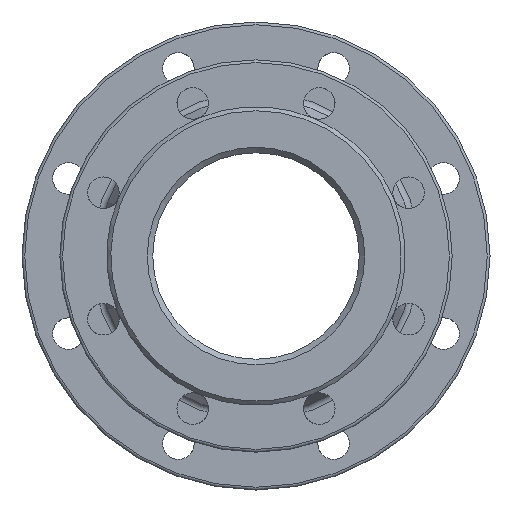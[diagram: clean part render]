
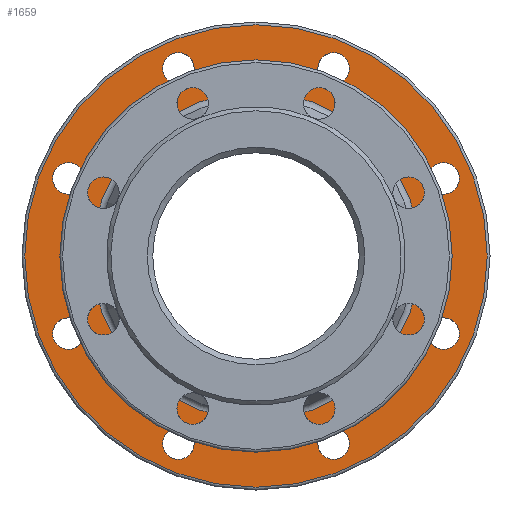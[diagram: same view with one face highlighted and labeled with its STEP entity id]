
A CAD part, left-side view. The second image highlights one B-rep face of the part: STEP entity #1659.
In plain terms, the highlighted planar face has unit normal (-1, 0, 0).
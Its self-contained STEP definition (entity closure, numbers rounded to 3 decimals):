
#67 = EDGE_LOOP ( 'NONE', ( #2176 ) ) ;
#70 = EDGE_CURVE ( 'NONE', #1224, #1224, #1065, .T. ) ;
#116 = DIRECTION ( 'NONE',  ( 0., 0., -1. ) ) ;
#160 = DIRECTION ( 'NONE',  ( 1., 0., 0. ) ) ;
#213 = AXIS2_PLACEMENT_3D ( 'NONE', #1549, #1332, #116 ) ;
#220 = EDGE_LOOP ( 'NONE', ( #1546 ) ) ;
#225 = ORIENTED_EDGE ( 'NONE', *, *, #636, .T. ) ;
#236 = CARTESIAN_POINT ( 'NONE',  ( 280., 136.272, -67.946 ) ) ;
#259 = AXIS2_PLACEMENT_3D ( 'NONE', #1467, #1703, #2485 ) ;
#281 = DIRECTION ( 'NONE',  ( 1., 0., 0. ) ) ;
#291 = DIRECTION ( 'NONE',  ( 1., 0., 0. ) ) ;
#300 = AXIS2_PLACEMENT_3D ( 'NONE', #2527, #2542, #308 ) ;
#308 = DIRECTION ( 'NONE',  ( 0., 0., -1. ) ) ;
#319 = FACE_BOUND ( 'NONE', #342, .T. ) ;
#342 = EDGE_LOOP ( 'NONE', ( #1066 ) ) ;
#344 = CIRCLE ( 'NONE', #213, 168. ) ;
#369 = EDGE_LOOP ( 'NONE', ( #2404 ) ) ;
#402 = EDGE_LOOP ( 'NONE', ( #2418 ) ) ;
#417 = CARTESIAN_POINT ( 'NONE',  ( 280., -136.272, 44.946 ) ) ;
#466 = DIRECTION ( 'NONE',  ( 1., 0., 0. ) ) ;
#474 = FACE_BOUND ( 'NONE', #1943, .T. ) ;
#525 = FACE_BOUND ( 'NONE', #1707, .T. ) ;
#552 = AXIS2_PLACEMENT_3D ( 'NONE', #1528, #1556, #1981 ) ;
#616 = VERTEX_POINT ( 'NONE', #2507 ) ;
#622 = ORIENTED_EDGE ( 'NONE', *, *, #628, .T. ) ;
#628 = EDGE_CURVE ( 'NONE', #810, #810, #1759, .T. ) ;
#630 = VERTEX_POINT ( 'NONE', #236 ) ;
#636 = EDGE_CURVE ( 'NONE', #1800, #1800, #1156, .T. ) ;
#685 = AXIS2_PLACEMENT_3D ( 'NONE', #2664, #1232, #2474 ) ;
#687 = EDGE_CURVE ( 'NONE', #616, #616, #1669, .T. ) ;
#692 = FACE_BOUND ( 'NONE', #1037, .T. ) ;
#721 = CARTESIAN_POINT ( 'NONE',  ( 280., 136.272, -56.446 ) ) ;
#755 = EDGE_CURVE ( 'NONE', #1894, #1894, #1499, .T. ) ;
#783 = EDGE_CURVE ( 'NONE', #2051, #2051, #939, .T. ) ;
#794 = AXIS2_PLACEMENT_3D ( 'NONE', #1521, #915, #1291 ) ;
#810 = VERTEX_POINT ( 'NONE', #1575 ) ;
#835 = CARTESIAN_POINT ( 'NONE',  ( 280., 0., -168. ) ) ;
#872 = EDGE_CURVE ( 'NONE', #2248, #2248, #1583, .T. ) ;
#915 = DIRECTION ( 'NONE',  ( 1., 0., 0. ) ) ;
#929 = FACE_OUTER_BOUND ( 'NONE', #369, .T. ) ;
#939 = CIRCLE ( 'NONE', #1444, 11.5 ) ;
#940 = FACE_BOUND ( 'NONE', #2100, .T. ) ;
#1037 = EDGE_LOOP ( 'NONE', ( #622 ) ) ;
#1063 = VERTEX_POINT ( 'NONE', #2295 ) ;
#1065 = CIRCLE ( 'NONE', #300, 11.5 ) ;
#1066 = ORIENTED_EDGE ( 'NONE', *, *, #1189, .T. ) ;
#1091 = FACE_BOUND ( 'NONE', #220, .T. ) ;
#1131 = FACE_BOUND ( 'NONE', #2147, .T. ) ;
#1156 = CIRCLE ( 'NONE', #1405, 119.185 ) ;
#1178 = CARTESIAN_POINT ( 'NONE',  ( 280., 56.446, 136.272 ) ) ;
#1189 = EDGE_CURVE ( 'NONE', #630, #630, #1507, .T. ) ;
#1207 = AXIS2_PLACEMENT_3D ( 'NONE', #721, #281, #1939 ) ;
#1224 = VERTEX_POINT ( 'NONE', #1409 ) ;
#1232 = DIRECTION ( 'NONE',  ( 1., 0., 0. ) ) ;
#1237 = CARTESIAN_POINT ( 'NONE',  ( 280., 136.272, 44.946 ) ) ;
#1255 = ORIENTED_EDGE ( 'NONE', *, *, #2093, .T. ) ;
#1259 = ORIENTED_EDGE ( 'NONE', *, *, #872, .T. ) ;
#1291 = DIRECTION ( 'NONE',  ( 0., 0., -1. ) ) ;
#1305 = PLANE ( 'NONE',  #1594 ) ;
#1332 = DIRECTION ( 'NONE',  ( -1., 0., 0. ) ) ;
#1405 = AXIS2_PLACEMENT_3D ( 'NONE', #2199, #1427, #1649 ) ;
#1409 = CARTESIAN_POINT ( 'NONE',  ( 280., -56.446, -147.772 ) ) ;
#1414 = DIRECTION ( 'NONE',  ( 0., 0., -1. ) ) ;
#1418 = ORIENTED_EDGE ( 'NONE', *, *, #783, .T. ) ;
#1427 = DIRECTION ( 'NONE',  ( 1., 0., 0. ) ) ;
#1444 = AXIS2_PLACEMENT_3D ( 'NONE', #2058, #466, #2257 ) ;
#1467 = CARTESIAN_POINT ( 'NONE',  ( 280., -136.272, 56.446 ) ) ;
#1499 = CIRCLE ( 'NONE', #259, 11.5 ) ;
#1507 = CIRCLE ( 'NONE', #1207, 11.5 ) ;
#1510 = FACE_BOUND ( 'NONE', #402, .T. ) ;
#1521 = CARTESIAN_POINT ( 'NONE',  ( 280., 56.446, -136.272 ) ) ;
#1522 = DIRECTION ( 'NONE',  ( 0., 0., -1. ) ) ;
#1528 = CARTESIAN_POINT ( 'NONE',  ( 280., 136.272, 56.446 ) ) ;
#1546 = ORIENTED_EDGE ( 'NONE', *, *, #70, .T. ) ;
#1549 = CARTESIAN_POINT ( 'NONE',  ( 280., 0., 0. ) ) ;
#1556 = DIRECTION ( 'NONE',  ( 1., 0., 0. ) ) ;
#1575 = CARTESIAN_POINT ( 'NONE',  ( 280., 56.446, 124.772 ) ) ;
#1580 = AXIS2_PLACEMENT_3D ( 'NONE', #1178, #160, #1414 ) ;
#1583 = CIRCLE ( 'NONE', #552, 11.5 ) ;
#1594 = AXIS2_PLACEMENT_3D ( 'NONE', #2124, #291, #1522 ) ;
#1649 = DIRECTION ( 'NONE',  ( 0., 0., -1. ) ) ;
#1659 = ADVANCED_FACE ( 'NONE', ( #525, #929, #319, #474, #692, #940, #1510, #1935, #1091, #1131 ), #1305, .F. ) ;
#1669 = CIRCLE ( 'NONE', #685, 11.5 ) ;
#1695 = CARTESIAN_POINT ( 'NONE',  ( 280., -56.446, 124.772 ) ) ;
#1703 = DIRECTION ( 'NONE',  ( 1., 0., 0. ) ) ;
#1707 = EDGE_LOOP ( 'NONE', ( #225 ) ) ;
#1721 = EDGE_CURVE ( 'NONE', #2493, #2493, #344, .T. ) ;
#1759 = CIRCLE ( 'NONE', #1580, 11.5 ) ;
#1800 = VERTEX_POINT ( 'NONE', #2632 ) ;
#1894 = VERTEX_POINT ( 'NONE', #417 ) ;
#1935 = FACE_BOUND ( 'NONE', #67, .T. ) ;
#1939 = DIRECTION ( 'NONE',  ( 0., 0., -1. ) ) ;
#1943 = EDGE_LOOP ( 'NONE', ( #1259 ) ) ;
#1981 = DIRECTION ( 'NONE',  ( 0., 0., -1. ) ) ;
#2051 = VERTEX_POINT ( 'NONE', #1695 ) ;
#2058 = CARTESIAN_POINT ( 'NONE',  ( 280., -56.446, 136.272 ) ) ;
#2093 = EDGE_CURVE ( 'NONE', #1063, #1063, #2165, .T. ) ;
#2100 = EDGE_LOOP ( 'NONE', ( #1418 ) ) ;
#2124 = CARTESIAN_POINT ( 'NONE',  ( 280., 116., 0. ) ) ;
#2147 = EDGE_LOOP ( 'NONE', ( #1255 ) ) ;
#2165 = CIRCLE ( 'NONE', #794, 11.5 ) ;
#2176 = ORIENTED_EDGE ( 'NONE', *, *, #687, .T. ) ;
#2199 = CARTESIAN_POINT ( 'NONE',  ( 280., 0., 0. ) ) ;
#2248 = VERTEX_POINT ( 'NONE', #1237 ) ;
#2257 = DIRECTION ( 'NONE',  ( 0., 0., -1. ) ) ;
#2295 = CARTESIAN_POINT ( 'NONE',  ( 280., 56.446, -147.772 ) ) ;
#2404 = ORIENTED_EDGE ( 'NONE', *, *, #1721, .T. ) ;
#2418 = ORIENTED_EDGE ( 'NONE', *, *, #755, .T. ) ;
#2474 = DIRECTION ( 'NONE',  ( 0., 0., -1. ) ) ;
#2485 = DIRECTION ( 'NONE',  ( 0., 0., -1. ) ) ;
#2493 = VERTEX_POINT ( 'NONE', #835 ) ;
#2507 = CARTESIAN_POINT ( 'NONE',  ( 280., -136.272, -67.946 ) ) ;
#2527 = CARTESIAN_POINT ( 'NONE',  ( 280., -56.446, -136.272 ) ) ;
#2542 = DIRECTION ( 'NONE',  ( 1., 0., 0. ) ) ;
#2632 = CARTESIAN_POINT ( 'NONE',  ( 280., 0., -119.185 ) ) ;
#2664 = CARTESIAN_POINT ( 'NONE',  ( 280., -136.272, -56.446 ) ) ;
